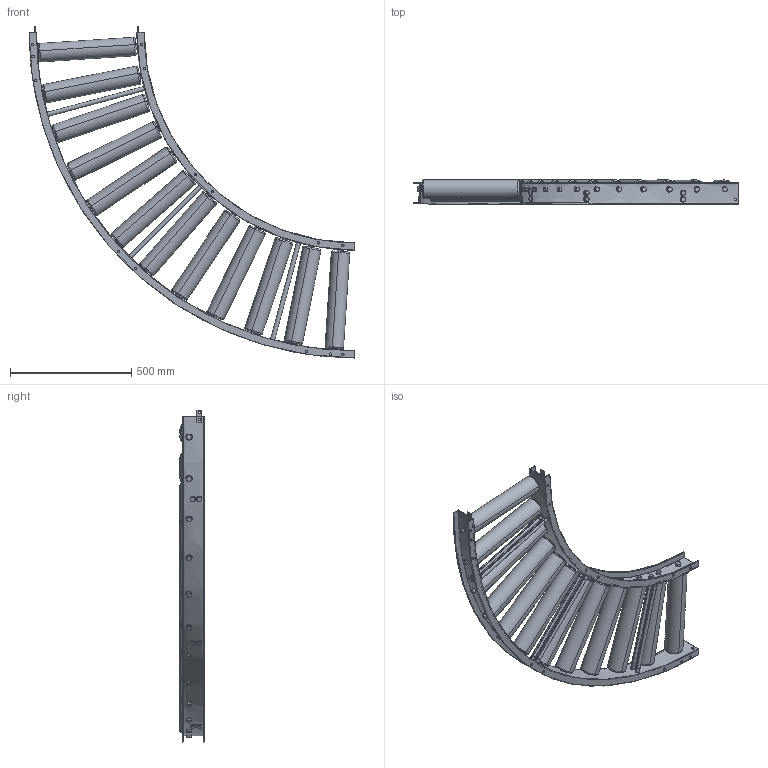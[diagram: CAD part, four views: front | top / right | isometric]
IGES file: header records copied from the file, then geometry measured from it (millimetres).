
Start section: SolidWorks IGES file using analytic representation for surfaces
Global section: file name: C:\Users\0656\Desktop\変換ツール\iges変換\RZ-7642SB_C.igs; native system: SolidWorks 2023; preprocessor: SolidWorks 2023; author: 0656; date: 240315.112810; units: millimetre
Bounding box: 1345 x 100.15 x 1370.12 mm (x, y, z)
Surface area: 3173433.7 mm2 (no closed solid volume)
Topology: 0 solids, 0 shells, 748 faces, 16000 edges, 16000 vertices
Faces by surface type: revolution 400, bspline 348
